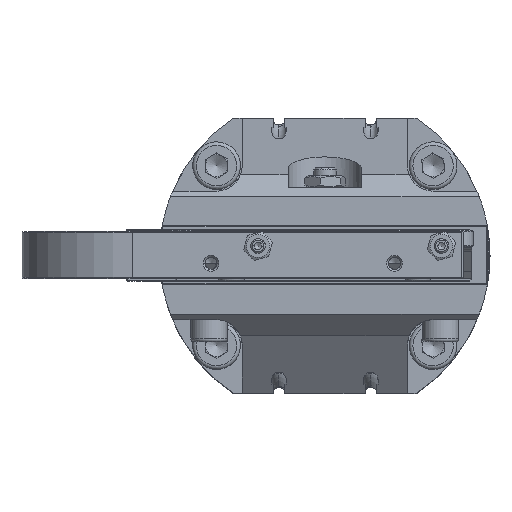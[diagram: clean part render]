
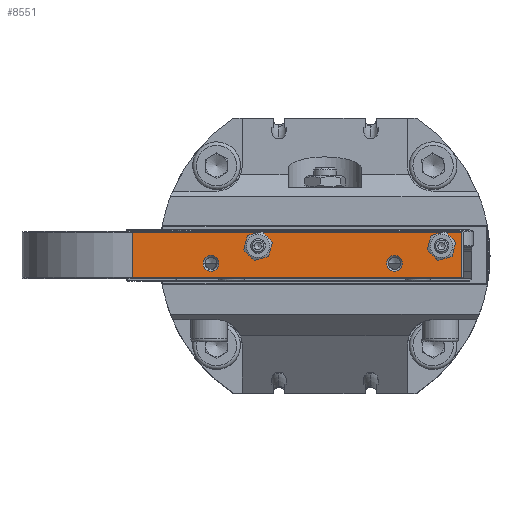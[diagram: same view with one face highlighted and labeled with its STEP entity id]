
A CAD part, top view. The second image highlights one B-rep face of the part: STEP entity #8551.
In plain terms, the highlighted planar face has unit normal (0, 0, 1).
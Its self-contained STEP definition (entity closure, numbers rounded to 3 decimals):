
#7168=FACE_BOUND('',#10463,.T.);
#7169=FACE_BOUND('',#10464,.T.);
#7170=FACE_BOUND('',#10465,.T.);
#7171=FACE_BOUND('',#10466,.T.);
#7172=FACE_BOUND('',#10467,.T.);
#7883=PLANE('',#22637);
#8551=ADVANCED_FACE('',(#7168,#7169,#7170,#7171,#7172),#7883,.F.);
#10463=EDGE_LOOP('',(#13265));
#10464=EDGE_LOOP('',(#13266));
#10465=EDGE_LOOP('',(#13267));
#10466=EDGE_LOOP('',(#13268));
#10467=EDGE_LOOP('',(#13269,#13270,#13271,#13272));
#11898=CIRCLE('',#22633,3.125);
#11899=CIRCLE('',#22634,3.125);
#11900=CIRCLE('',#22635,2.15);
#11901=CIRCLE('',#22636,2.15);
#13265=ORIENTED_EDGE('',*,*,#18407,.T.);
#13266=ORIENTED_EDGE('',*,*,#18408,.F.);
#13267=ORIENTED_EDGE('',*,*,#18409,.T.);
#13268=ORIENTED_EDGE('',*,*,#18410,.T.);
#13269=ORIENTED_EDGE('',*,*,#18411,.T.);
#13270=ORIENTED_EDGE('',*,*,#18412,.T.);
#13271=ORIENTED_EDGE('',*,*,#18413,.F.);
#13272=ORIENTED_EDGE('',*,*,#18414,.T.);
#16883=VERTEX_POINT('',#30002);
#16884=VERTEX_POINT('',#30004);
#16885=VERTEX_POINT('',#30006);
#16886=VERTEX_POINT('',#30008);
#16887=VERTEX_POINT('',#30010);
#16888=VERTEX_POINT('',#30011);
#16889=VERTEX_POINT('',#30013);
#16890=VERTEX_POINT('',#30015);
#18407=EDGE_CURVE('',#16883,#16883,#11898,.T.);
#18408=EDGE_CURVE('',#16884,#16884,#11899,.T.);
#18409=EDGE_CURVE('',#16885,#16885,#11900,.T.);
#18410=EDGE_CURVE('',#16886,#16886,#11901,.T.);
#18411=EDGE_CURVE('',#16887,#16888,#20282,.T.);
#18412=EDGE_CURVE('',#16888,#16889,#20283,.T.);
#18413=EDGE_CURVE('',#16890,#16889,#20284,.T.);
#18414=EDGE_CURVE('',#16890,#16887,#20285,.T.);
#20282=LINE('',#30009,#21521);
#20283=LINE('',#30012,#21522);
#20284=LINE('',#30014,#21523);
#20285=LINE('',#30016,#21524);
#21521=VECTOR('',#24988,1.);
#21522=VECTOR('',#24989,1.);
#21523=VECTOR('',#24990,1.);
#21524=VECTOR('',#24991,1.);
#22633=AXIS2_PLACEMENT_3D('',#30001,#24980,#24981);
#22634=AXIS2_PLACEMENT_3D('',#30003,#24982,#24983);
#22635=AXIS2_PLACEMENT_3D('',#30005,#24984,#24985);
#22636=AXIS2_PLACEMENT_3D('',#30007,#24986,#24987);
#22637=AXIS2_PLACEMENT_3D('',#30017,#24992,#24993);
#24980=DIRECTION('',(0.,0.,-1.));
#24981=DIRECTION('',(-0.965,-0.261,0.));
#24982=DIRECTION('',(0.,0.,1.));
#24983=DIRECTION('',(-1.,0.,0.));
#24984=DIRECTION('',(0.,0.,-1.));
#24985=DIRECTION('',(0.,1.,0.));
#24986=DIRECTION('',(0.,0.,-1.));
#24987=DIRECTION('',(0.,1.,0.));
#24988=DIRECTION('',(0.,1.,0.));
#24989=DIRECTION('',(-1.,0.,0.));
#24990=DIRECTION('',(0.,1.,0.));
#24991=DIRECTION('',(1.,0.,0.));
#24992=DIRECTION('',(0.,0.,-1.));
#24993=DIRECTION('',(0.,-1.,0.));
#30001=CARTESIAN_POINT('',(-18.2,2.35,99.));
#30002=CARTESIAN_POINT('',(-21.217,1.534,99.));
#30003=CARTESIAN_POINT('',(31.8,2.35,99.));
#30004=CARTESIAN_POINT('',(28.675,2.35,99.));
#30005=CARTESIAN_POINT('',(19.,-2.35,99.));
#30006=CARTESIAN_POINT('',(19.,-0.2,99.));
#30007=CARTESIAN_POINT('',(-31.,-2.35,99.));
#30008=CARTESIAN_POINT('',(-31.,-0.2,99.));
#30009=CARTESIAN_POINT('',(37.3,-8.,99.));
#30010=CARTESIAN_POINT('',(37.3,-6.15,99.));
#30011=CARTESIAN_POINT('',(37.3,6.15,99.));
#30012=CARTESIAN_POINT('',(-52.5,6.15,99.));
#30013=CARTESIAN_POINT('',(-52.5,6.15,99.));
#30014=CARTESIAN_POINT('',(-52.5,-8.,99.));
#30015=CARTESIAN_POINT('',(-52.5,-6.15,99.));
#30016=CARTESIAN_POINT('',(37.3,-6.15,99.));
#30017=CARTESIAN_POINT('',(37.8,-8.,99.));
